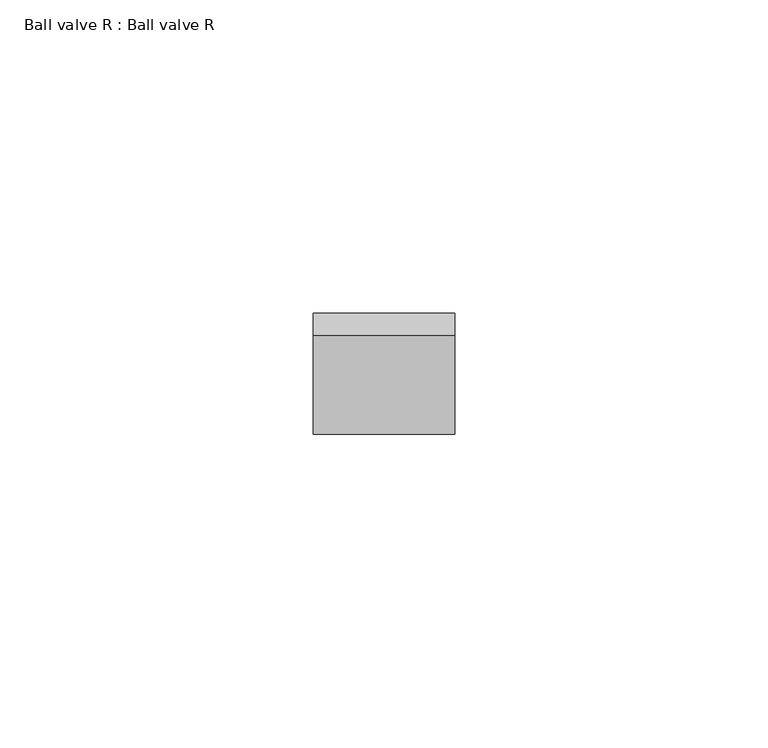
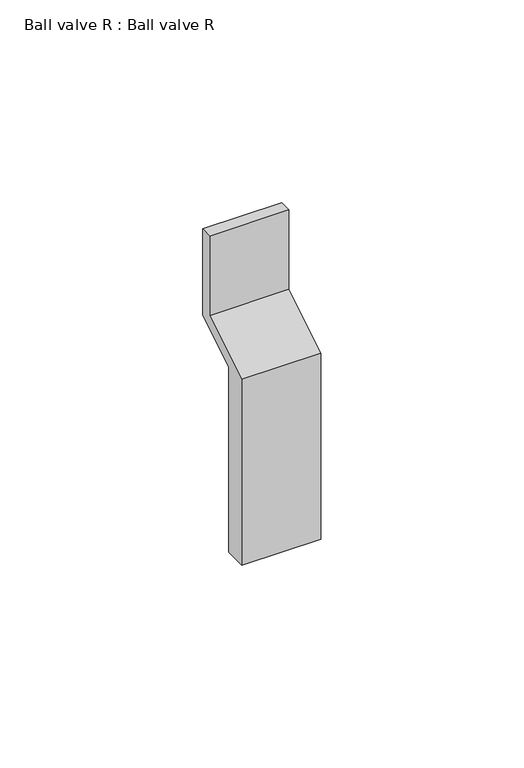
"""IFC4 building model written with IfcOpenShell, lengths in millimetres: proxy geometry, Ball valve R : Ball valve R."""

from ifc_helpers import new_model, si_unit, frame, origin, place, context, project, spatial, polyline, outline, extrude, source, transform, mapped, element, save


def ball_valve_r_ball_valve_r_d7886cb1(model_context):
    return source(origin(), model_context, "Body", "SweptSolid", [
        extrude(outline(polyline([(3.25, -61.0027321), (-3.25, -61.0027321), (-3.25, -5.0690551), (12.5, 4.542171), (12.5, 28.5), (16.0, 28.5), (16.0, 2.5777843), (3.25, -5.2027321), (3.25, -61.0027321)])), frame((-11.25, 0.0, 0.0), z_axis=(1.0, 0.0, 0.0), x_axis=(0.0, 1.0, 0.0)), (0.0, 0.0, 1.0), 22.5),
    ])


if __name__ == "__main__":
    model = new_model("IFC4")
    model_context = context("Model", 3, world=origin())
    ifc_project = project(units=[si_unit("LENGTHUNIT", "METRE", prefix="MILLI")], contexts=[model_context])
    site = spatial("IfcSite", under=ifc_project)
    building = spatial("IfcBuilding", under=site)
    placement = place(None, origin())
    ball_valve_r_ball_valve_r_shape = ball_valve_r_ball_valve_r_d7886cb1(model_context)
    element("IfcBuildingElementProxy", 1, Name="Ball valve R : Ball valve R", ObjectType="Ball valve R : Ball valve R", at=placement, inside=building, context=model_context, shape_type="MappedRepresentation", body=[
        mapped(ball_valve_r_ball_valve_r_shape, transform((0.0, 0.0, 0.0), x_axis=(1.0, 0.0, 0.0), y_axis=(0.0, 1.0, 0.0), z_axis=(0.0, 0.0, 1.0))),
    ])
    save(model, "model.ifc")
